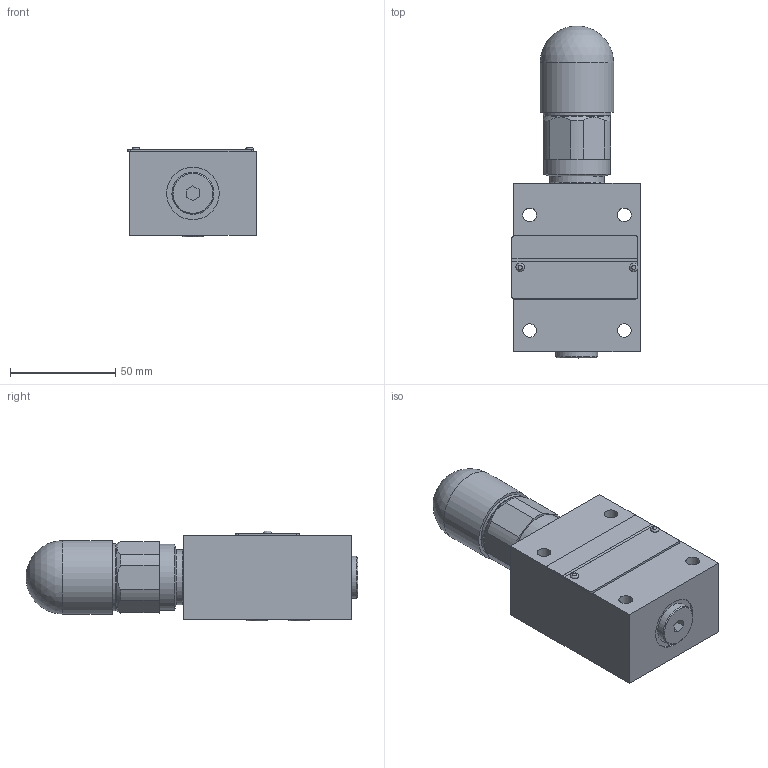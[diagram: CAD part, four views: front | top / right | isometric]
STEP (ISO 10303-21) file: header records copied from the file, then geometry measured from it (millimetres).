
FILE_DESCRIPTION(/* description */ (''),/* implementation_level */ '2;1');
FILE_NAME(/* name */ 'DBDS6P-1XJ直动型板式溢流阀.prt.stp',/* time_stamp */ '2022-03-30T20:14:23+08:00',/* author */ (''),/* organization */ (''),/* preprocessor_version */ 'ST-DEVELOPER v16.7',/* originating_system */ 'SIEMENS PLM Software NX 12.0',/* authorisation */ '');
FILE_SCHEMA (('AUTOMOTIVE_DESIGN { 1 0 10303 214 3 1 1 1 }'));
Length unit declared in the file: millimetre
Products named in the file (1): DBDS6P-1XJ直动型板式溢流阀
Bounding box: 60.9 x 157.84 x 42.75 mm (x, y, z)
Volume: 261107 mm3; surface area: 67289.9 mm2
Topology: 24 solids, 25 shells, 506 faces, 1166 edges, 720 vertices
Faces by surface type: plane 280, cylinder 116, cone 48, torus 31, bspline 20, extrusion 8, sphere 3
Full cylindrical faces by diameter (mm): 1 x2, 1.8 x2, 1.9 x2, 2 x4, 2.5 x1, 3 x4, 3.1 x2, 3.3 x1, 4.4 x2, 4.7 x2, 4.709 x1, 5.1 x4, 5.209 x1, 5.5 x1, 6 x3, 6.5 x4, 6.8 x1, 7.8 x2, 10 x3, 11 x3, 15 x2, 16 x1, 16.5 x1, 17.28 x1, 19.7 x1, 20 x2, 20.3 x1, 20.4 x1, 20.48 x2, 21 x1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
Entity records: 27009 total; most frequent: CARTESIAN_POINT 16794, DIRECTION 1978, ORIENTED_EDGE 1860, EDGE_CURVE 930, AXIS2_PLACEMENT_3D 803, EDGE_LOOP 701, VERTEX_POINT 661, ADVANCED_FACE 497
